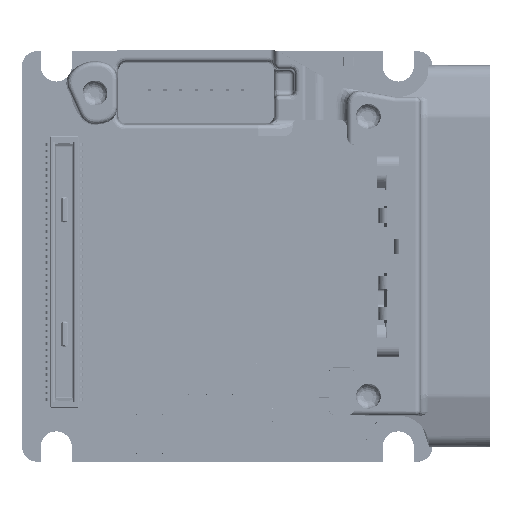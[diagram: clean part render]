
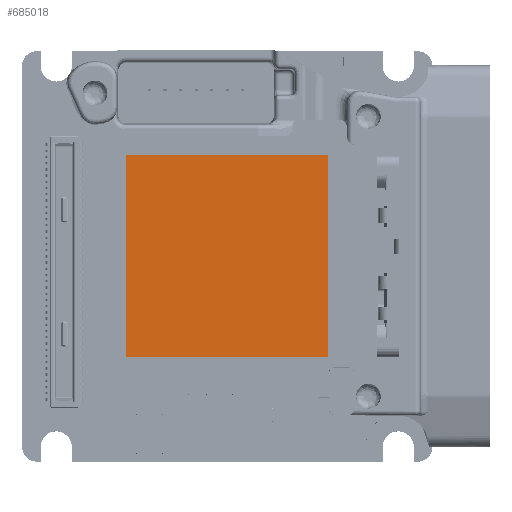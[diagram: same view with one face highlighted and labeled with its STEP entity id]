
A CAD part, top view. The second image highlights one B-rep face of the part: STEP entity #685018.
In plain terms, the highlighted planar face has unit normal (0, 0, 1).
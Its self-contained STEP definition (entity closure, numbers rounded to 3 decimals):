
#17396 = CARTESIAN_POINT ( 'NONE',  ( -6.5, -6.5, 6.162 ) ) ;
#26963 = CARTESIAN_POINT ( 'NONE',  ( -6.5, 6.5, 6.162 ) ) ;
#38731 = CARTESIAN_POINT ( 'NONE',  ( 6.5, -6.5, 6.162 ) ) ;
#70368 = VECTOR ( 'NONE', #646503, 1000. ) ;
#82900 = PLANE ( 'NONE',  #462975 ) ;
#84619 = ORIENTED_EDGE ( 'NONE', *, *, #477536, .F. ) ;
#90370 = CARTESIAN_POINT ( 'NONE',  ( -6.5, -6.5, 6.162 ) ) ;
#106800 = EDGE_CURVE ( 'NONE', #160019, #308640, #506263, .T. ) ;
#157625 = CARTESIAN_POINT ( 'NONE',  ( 6.5, 6.5, 6.162 ) ) ;
#160019 = VERTEX_POINT ( 'NONE', #239427 ) ;
#194022 = CARTESIAN_POINT ( 'NONE',  ( 6.5, 6.5, 6.162 ) ) ;
#200820 = DIRECTION ( 'NONE',  ( 0., 0., 1. ) ) ;
#239427 = CARTESIAN_POINT ( 'NONE',  ( 6.5, -6.5, 6.162 ) ) ;
#241447 = EDGE_LOOP ( 'NONE', ( #384879, #537223, #419092, #84619 ) ) ;
#254109 = DIRECTION ( 'NONE',  ( 1., 0., 0. ) ) ;
#262163 = LINE ( 'NONE', #554741, #288395 ) ;
#266539 = DIRECTION ( 'NONE',  ( 1., 0., 0. ) ) ;
#288395 = VECTOR ( 'NONE', #733443, 1000. ) ;
#308640 = VERTEX_POINT ( 'NONE', #17396 ) ;
#319717 = LINE ( 'NONE', #737831, #331101 ) ;
#331101 = VECTOR ( 'NONE', #266539, 1000. ) ;
#375604 = FACE_OUTER_BOUND ( 'NONE', #241447, .T. ) ;
#384879 = ORIENTED_EDGE ( 'NONE', *, *, #106800, .F. ) ;
#419092 = ORIENTED_EDGE ( 'NONE', *, *, #653807, .F. ) ;
#430399 = EDGE_CURVE ( 'NONE', #474143, #160019, #714778, .T. ) ;
#462975 = AXIS2_PLACEMENT_3D ( 'NONE', #90370, #200820, #254109 ) ;
#474143 = VERTEX_POINT ( 'NONE', #157625 ) ;
#477536 = EDGE_CURVE ( 'NONE', #308640, #691857, #262163, .T. ) ;
#481100 = VECTOR ( 'NONE', #559701, 1000. ) ;
#506263 = LINE ( 'NONE', #38731, #481100 ) ;
#537223 = ORIENTED_EDGE ( 'NONE', *, *, #430399, .F. ) ;
#554741 = CARTESIAN_POINT ( 'NONE',  ( -6.5, -6.5, 6.162 ) ) ;
#559701 = DIRECTION ( 'NONE',  ( -1., 0., 0. ) ) ;
#646503 = DIRECTION ( 'NONE',  ( 0., -1., 0. ) ) ;
#653807 = EDGE_CURVE ( 'NONE', #691857, #474143, #319717, .T. ) ;
#685018 = ADVANCED_FACE ( 'NONE', ( #375604 ), #82900, .T. ) ;
#691857 = VERTEX_POINT ( 'NONE', #26963 ) ;
#714778 = LINE ( 'NONE', #194022, #70368 ) ;
#733443 = DIRECTION ( 'NONE',  ( 0., 1., 0. ) ) ;
#737831 = CARTESIAN_POINT ( 'NONE',  ( -6.5, 6.5, 6.162 ) ) ;
